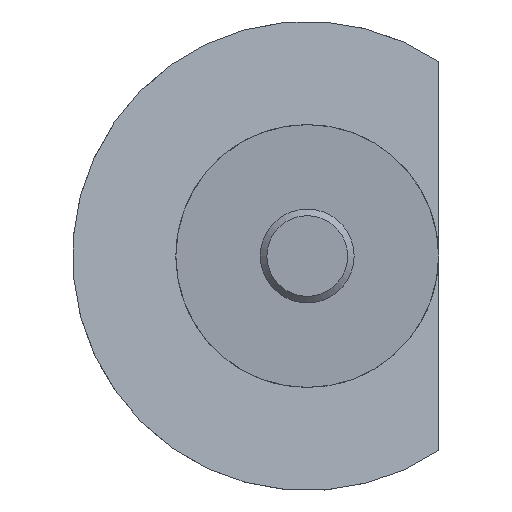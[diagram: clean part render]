
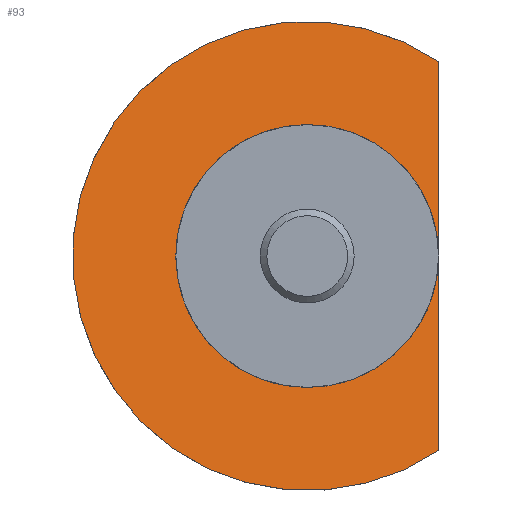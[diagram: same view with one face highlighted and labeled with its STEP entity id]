
A CAD part, front view. The second image highlights one B-rep face of the part: STEP entity #93.
In plain terms, the highlighted planar face has unit normal (0.075, -0.991, 0.111).
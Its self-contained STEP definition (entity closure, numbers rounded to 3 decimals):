
#93 = ADVANCED_FACE( '', ( #164 ), #165, .T. );
#164 = FACE_OUTER_BOUND( '', #267, .T. );
#165 = PLANE( '', #268 );
#267 = EDGE_LOOP( '', ( #458, #459, #460, #461 ) );
#268 = AXIS2_PLACEMENT_3D( '', #462, #463, #464 );
#458 = ORIENTED_EDGE( '', *, *, #708, .T. );
#459 = ORIENTED_EDGE( '', *, *, #693, .T. );
#460 = ORIENTED_EDGE( '', *, *, #707, .T. );
#461 = ORIENTED_EDGE( '', *, *, #713, .T. );
#462 = CARTESIAN_POINT( '', ( -27.416, 6.78, 48.768 ) );
#463 = DIRECTION( '', ( 0.075, -0.991, 0.111 ) );
#464 = DIRECTION( '', ( 0., -0.111, -0.994 ) );
#693 = EDGE_CURVE( '', #817, #817, #818, .F. );
#707 = EDGE_CURVE( '', #817, #844, #845, .T. );
#708 = EDGE_CURVE( '', #846, #817, #847, .T. );
#713 = EDGE_CURVE( '', #844, #846, #854, .T. );
#817 = VERTEX_POINT( '', #1014 );
#818 = ELLIPSE( '', #1015, 14.128, 14. );
#844 = VERTEX_POINT( '', #1046 );
#845 = LINE( '', #1047, #1048 );
#846 = VERTEX_POINT( '', #1049 );
#847 = LINE( '', #1050, #1051 );
#854 = ELLIPSE( '', #1062, 25.228, 25. );
#1014 = CARTESIAN_POINT( '', ( 14., 4.443, 0. ) );
#1015 = AXIS2_PLACEMENT_3D( '', #1234, #1235, #1236 );
#1046 = CARTESIAN_POINT( '', ( 14., 6.766, 20.712 ) );
#1047 = CARTESIAN_POINT( '', ( 14., 6.832, 21.292 ) );
#1048 = VECTOR( '', #1266, 1000. );
#1049 = CARTESIAN_POINT( '', ( 14., 2.119, -20.712 ) );
#1050 = CARTESIAN_POINT( '', ( 14., 6.832, 21.292 ) );
#1051 = VECTOR( '', #1267, 1000. );
#1062 = AXIS2_PLACEMENT_3D( '', #1272, #1273, #1274 );
#1234 = CARTESIAN_POINT( '', ( 0., 3.383, 0. ) );
#1235 = DIRECTION( '', ( 0.075, -0.991, 0.111 ) );
#1236 = DIRECTION( '', ( -0.554, -0.134, -0.822 ) );
#1266 = DIRECTION( '', ( 0., 0.111, 0.994 ) );
#1267 = DIRECTION( '', ( 0., 0.111, 0.994 ) );
#1272 = CARTESIAN_POINT( '', ( 0., 3.383, 0. ) );
#1273 = DIRECTION( '', ( 0.075, -0.991, 0.111 ) );
#1274 = DIRECTION( '', ( -0.554, -0.134, -0.822 ) );
